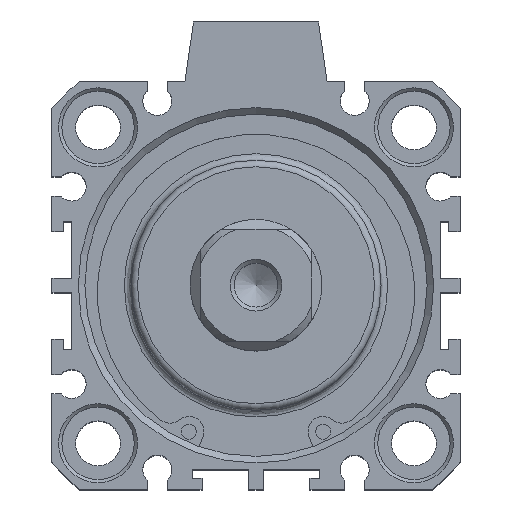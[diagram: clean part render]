
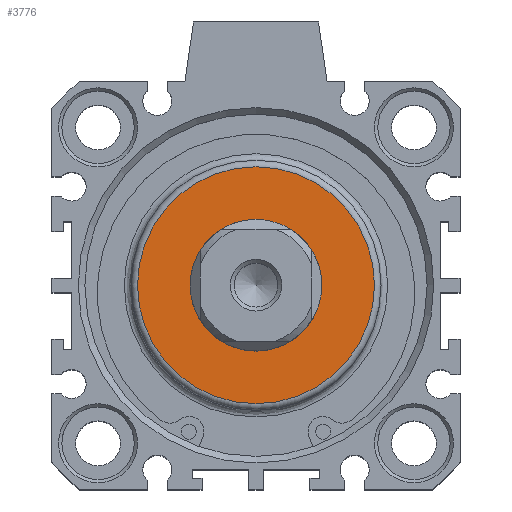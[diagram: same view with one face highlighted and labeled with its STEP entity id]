
A CAD part, top view. The second image highlights one B-rep face of the part: STEP entity #3776.
In plain terms, the highlighted planar face has unit normal (0, 0, 1).
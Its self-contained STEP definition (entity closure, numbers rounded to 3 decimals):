
#3276=CARTESIAN_POINT('',(-7.057,11.794,62.5));
#3277=VERTEX_POINT('',#3276);
#3278=CARTESIAN_POINT('',(-7.057,1.794,62.5));
#3279=DIRECTION('',(0.0,0.0,-1.0));
#3280=DIRECTION('',(0.0,1.0,0.0));
#3281=AXIS2_PLACEMENT_3D('',#3278,#3279,#3280);
#3282=CIRCLE('',#3281,10.0);
#3283=EDGE_CURVE('',#3277,#3277,#3282,.T.);
#3750=CARTESIAN_POINT('',(-7.057,19.794,62.5));
#3751=VERTEX_POINT('',#3750);
#3752=CARTESIAN_POINT('',(-7.057,1.794,62.5));
#3753=DIRECTION('',(0.0,0.0,-1.0));
#3754=DIRECTION('',(0.0,-1.0,0.0));
#3755=AXIS2_PLACEMENT_3D('',#3752,#3753,#3754);
#3756=CIRCLE('',#3755,18.0);
#3757=EDGE_CURVE('',#3751,#3751,#3756,.T.);
#3765=CARTESIAN_POINT('',(-7.057,11.294,62.5));
#3766=DIRECTION('',(0.0,0.0,1.0));
#3767=DIRECTION('',(1.0,0.0,0.0));
#3768=AXIS2_PLACEMENT_3D('',#3765,#3766,#3767);
#3769=PLANE('',#3768);
#3770=ORIENTED_EDGE('',*,*,#3757,.F.);
#3771=EDGE_LOOP('',(#3770));
#3772=FACE_OUTER_BOUND('',#3771,.T.);
#3773=ORIENTED_EDGE('',*,*,#3283,.T.);
#3774=EDGE_LOOP('',(#3773));
#3775=FACE_BOUND('',#3774,.T.);
#3776=ADVANCED_FACE('',(#3772,#3775),#3769,.T.);
